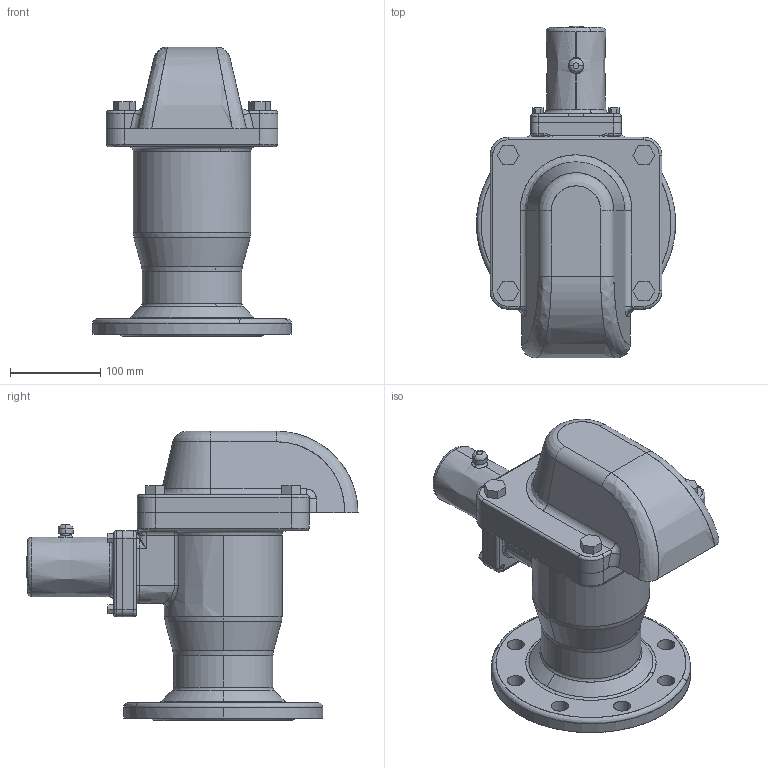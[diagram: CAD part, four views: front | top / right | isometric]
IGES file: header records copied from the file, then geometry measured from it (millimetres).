
Start section: SolidWorks IGES file using analytic representation for surfaces
Global section: file name: C:\Users\Administrator\Desktop\temp\0.IGS; native system: SolidWorks 2015; preprocessor: SolidWorks 2015; author: Administrator; date: 170528.114300; units: millimetre
Bounding box: 220 x 367 x 320 mm (x, y, z)
Surface area: 758575.6 mm2 (no closed solid volume)
Topology: 0 solids, 0 shells, 457 faces, 7406 edges, 7391 vertices
Faces by surface type: bspline 247, revolution 210
